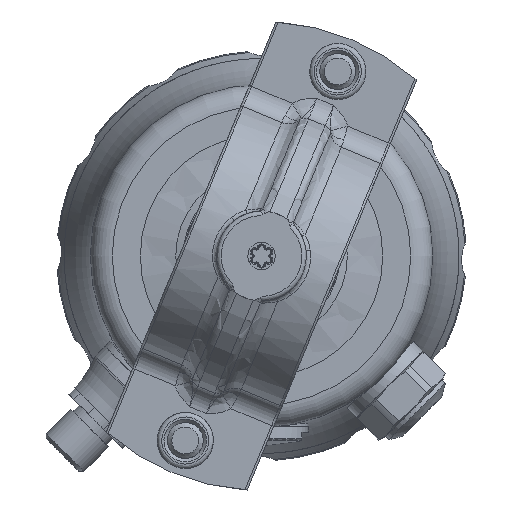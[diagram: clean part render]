
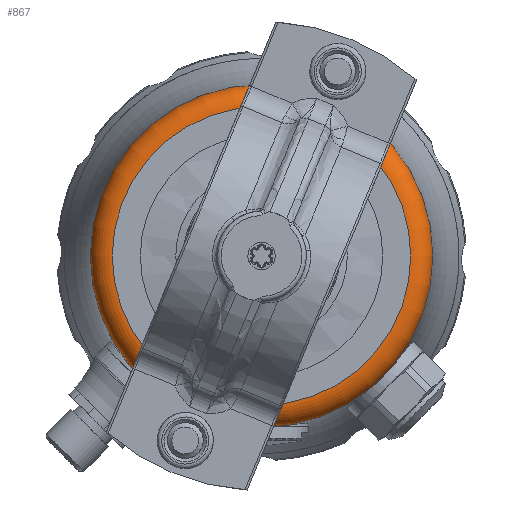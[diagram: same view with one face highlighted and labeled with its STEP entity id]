
A CAD part, left-side view. The second image highlights one B-rep face of the part: STEP entity #867.
In plain terms, the highlighted toroidal (fillet/blend) face has major radius 33.267 mm and minor radius 4.9 mm.
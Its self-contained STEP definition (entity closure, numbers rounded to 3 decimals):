
#867 = ADVANCED_FACE( '', ( #2394, #2395 ), #2396, .T. );
#2394 = FACE_OUTER_BOUND( '', #5138, .T. );
#2395 = FACE_OUTER_BOUND( '', #5139, .T. );
#2396 = TOROIDAL_SURFACE( '', #5140, 33.266, 4.9 );
#5138 = EDGE_LOOP( '', ( #11481 ) );
#5139 = EDGE_LOOP( '', ( #11482 ) );
#5140 = AXIS2_PLACEMENT_3D( '', #11483, #11484, #11485 );
#11481 = ORIENTED_EDGE( '', *, *, #17005, .T. );
#11482 = ORIENTED_EDGE( '', *, *, #17006, .F. );
#11483 = CARTESIAN_POINT( '', ( 4.9, 0., 0. ) );
#11484 = DIRECTION( '', ( 1., 0., 0. ) );
#11485 = DIRECTION( '', ( 0., 0.006, 1. ) );
#17005 = EDGE_CURVE( '', #19513, #19513, #19514, .T. );
#17006 = EDGE_CURVE( '', #19515, #19515, #19516, .T. );
#19513 = VERTEX_POINT( '', #23815 );
#19514 = CIRCLE( '', #23816, 33.266 );
#19515 = VERTEX_POINT( '', #23817 );
#19516 = CIRCLE( '', #23818, 38.166 );
#23815 = CARTESIAN_POINT( '', ( 0., 0., -33.266 ) );
#23816 = AXIS2_PLACEMENT_3D( '', #31771, #31772, #31773 );
#23817 = CARTESIAN_POINT( '', ( 4.9, 0., 38.166 ) );
#23818 = AXIS2_PLACEMENT_3D( '', #31774, #31775, #31776 );
#31771 = CARTESIAN_POINT( '', ( 0., 0., 0. ) );
#31772 = DIRECTION( '', ( 1., 0., 0. ) );
#31773 = DIRECTION( '', ( 0., 0., -1. ) );
#31774 = CARTESIAN_POINT( '', ( 4.9, 0., 0. ) );
#31775 = DIRECTION( '', ( 1., 0., 0. ) );
#31776 = DIRECTION( '', ( 0., 0., 1. ) );
